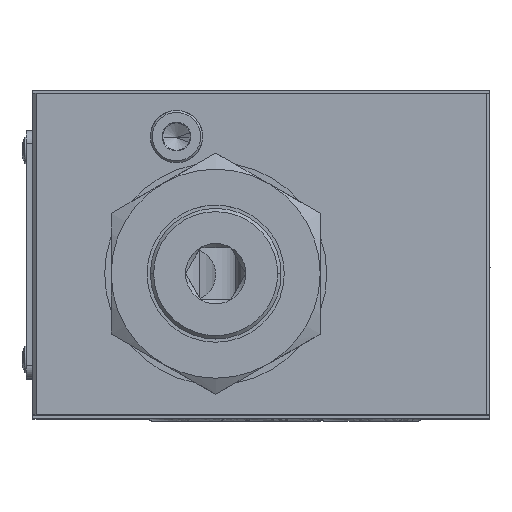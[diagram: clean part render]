
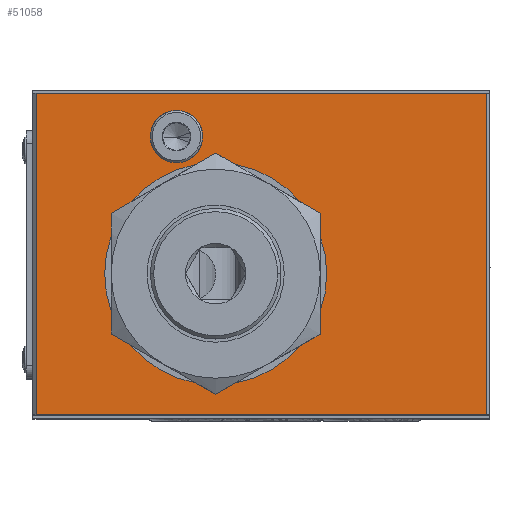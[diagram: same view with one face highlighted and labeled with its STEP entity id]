
A CAD part, top view. The second image highlights one B-rep face of the part: STEP entity #51058.
In plain terms, the highlighted planar face has unit normal (0, 0, 1).
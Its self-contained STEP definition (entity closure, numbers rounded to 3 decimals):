
#248 = AXIS2_PLACEMENT_3D ( 'NONE', #56162, #37222, #23531 ) ;
#324 = EDGE_CURVE ( 'NONE', #388, #19957, #31785, .T. ) ;
#388 = VERTEX_POINT ( 'NONE', #38814 ) ;
#2396 = EDGE_CURVE ( 'NONE', #3534, #35733, #44078, .T. ) ;
#2569 = CARTESIAN_POINT ( 'NONE',  ( 34.5, 24.6, 52.5 ) ) ;
#2976 = DIRECTION ( 'NONE',  ( 0., 1., 0. ) ) ;
#3145 = VERTEX_POINT ( 'NONE', #34135 ) ;
#3534 = VERTEX_POINT ( 'NONE', #30740 ) ;
#6315 = EDGE_LOOP ( 'NONE', ( #58267, #56287 ) ) ;
#7340 = AXIS2_PLACEMENT_3D ( 'NONE', #49820, #21880, #22082 ) ;
#8454 = CARTESIAN_POINT ( 'NONE',  ( -35., 24.6, 52.5 ) ) ;
#8456 = EDGE_CURVE ( 'NONE', #10649, #3145, #30714, .T. ) ;
#8865 = DIRECTION ( 'NONE',  ( 1., 0., 0. ) ) ;
#9330 = FACE_BOUND ( 'NONE', #6315, .T. ) ;
#10042 = VECTOR ( 'NONE', #8865, 1000. ) ;
#10649 = VERTEX_POINT ( 'NONE', #22522 ) ;
#10727 = CIRCLE ( 'NONE', #248, 17. ) ;
#11491 = CARTESIAN_POINT ( 'NONE',  ( -13., 18., 52.5 ) ) ;
#11526 = FACE_BOUND ( 'NONE', #53265, .T. ) ;
#12756 = CARTESIAN_POINT ( 'NONE',  ( 34.5, -24.6, 52.5 ) ) ;
#15528 = DIRECTION ( 'NONE',  ( 0., 0., 1. ) ) ;
#15740 = LINE ( 'NONE', #39865, #31067 ) ;
#15764 = CARTESIAN_POINT ( 'NONE',  ( -34.5, -24.6, 52.5 ) ) ;
#16257 = VECTOR ( 'NONE', #22938, 1000. ) ;
#17166 = PLANE ( 'NONE',  #7340 ) ;
#17938 = VECTOR ( 'NONE', #2976, 1000. ) ;
#18044 = LINE ( 'NONE', #8454, #10042 ) ;
#18322 = CARTESIAN_POINT ( 'NONE',  ( -7., -3., 52.5 ) ) ;
#18775 = FACE_OUTER_BOUND ( 'NONE', #53732, .T. ) ;
#19830 = ORIENTED_EDGE ( 'NONE', *, *, #41423, .F. ) ;
#19925 = EDGE_CURVE ( 'NONE', #44488, #35733, #15740, .T. ) ;
#19957 = VERTEX_POINT ( 'NONE', #54276 ) ;
#20280 = ORIENTED_EDGE ( 'NONE', *, *, #19925, .F. ) ;
#21209 = CIRCLE ( 'NONE', #53397, 4. ) ;
#21880 = DIRECTION ( 'NONE',  ( 0., 0., 1. ) ) ;
#22082 = DIRECTION ( 'NONE',  ( 1., 0., 0. ) ) ;
#22522 = CARTESIAN_POINT ( 'NONE',  ( 10., -3., 52.5 ) ) ;
#22938 = DIRECTION ( 'NONE',  ( 0., -1., 0. ) ) ;
#23531 = DIRECTION ( 'NONE',  ( 1., 0., 0. ) ) ;
#25961 = EDGE_CURVE ( 'NONE', #44488, #32193, #47898, .T. ) ;
#26575 = ORIENTED_EDGE ( 'NONE', *, *, #25961, .T. ) ;
#28785 = EDGE_CURVE ( 'NONE', #19957, #388, #21209, .T. ) ;
#30714 = CIRCLE ( 'NONE', #57607, 17. ) ;
#30740 = CARTESIAN_POINT ( 'NONE',  ( -34.5, 24.6, 52.5 ) ) ;
#30798 = CARTESIAN_POINT ( 'NONE',  ( 34.5, 24.6, 52.5 ) ) ;
#31067 = VECTOR ( 'NONE', #58800, 1000. ) ;
#31785 = CIRCLE ( 'NONE', #49092, 4. ) ;
#32193 = VERTEX_POINT ( 'NONE', #30798 ) ;
#33987 = ORIENTED_EDGE ( 'NONE', *, *, #2396, .T. ) ;
#34135 = CARTESIAN_POINT ( 'NONE',  ( -24., -3., 52.5 ) ) ;
#34253 = EDGE_CURVE ( 'NONE', #3534, #32193, #18044, .T. ) ;
#35733 = VERTEX_POINT ( 'NONE', #15764 ) ;
#37222 = DIRECTION ( 'NONE',  ( 0., 0., 1. ) ) ;
#38814 = CARTESIAN_POINT ( 'NONE',  ( -9., 18., 52.5 ) ) ;
#39443 = ORIENTED_EDGE ( 'NONE', *, *, #34253, .F. ) ;
#39865 = CARTESIAN_POINT ( 'NONE',  ( 35., -24.6, 52.5 ) ) ;
#41423 = EDGE_CURVE ( 'NONE', #3145, #10649, #10727, .T. ) ;
#41767 = CARTESIAN_POINT ( 'NONE',  ( -34.5, -24.6, 52.5 ) ) ;
#42470 = CARTESIAN_POINT ( 'NONE',  ( -13., 18., 52.5 ) ) ;
#44078 = LINE ( 'NONE', #41767, #16257 ) ;
#44488 = VERTEX_POINT ( 'NONE', #12756 ) ;
#47898 = LINE ( 'NONE', #2569, #17938 ) ;
#49092 = AXIS2_PLACEMENT_3D ( 'NONE', #11491, #15528, #58171 ) ;
#49820 = CARTESIAN_POINT ( 'NONE',  ( -35., -25.1, 52.5 ) ) ;
#50992 = DIRECTION ( 'NONE',  ( 1., 0., 0. ) ) ;
#51058 = ADVANCED_FACE ( 'NONE', ( #9330, #18775, #11526 ), #17166, .T. ) ;
#51553 = DIRECTION ( 'NONE',  ( 0., 0., 1. ) ) ;
#51587 = DIRECTION ( 'NONE',  ( 0., 0., 1. ) ) ;
#53265 = EDGE_LOOP ( 'NONE', ( #53838, #19830 ) ) ;
#53397 = AXIS2_PLACEMENT_3D ( 'NONE', #42470, #51587, #50992 ) ;
#53732 = EDGE_LOOP ( 'NONE', ( #20280, #26575, #39443, #33987 ) ) ;
#53838 = ORIENTED_EDGE ( 'NONE', *, *, #8456, .F. ) ;
#54276 = CARTESIAN_POINT ( 'NONE',  ( -17., 18., 52.5 ) ) ;
#56162 = CARTESIAN_POINT ( 'NONE',  ( -7., -3., 52.5 ) ) ;
#56287 = ORIENTED_EDGE ( 'NONE', *, *, #28785, .F. ) ;
#56451 = DIRECTION ( 'NONE',  ( 1., 0., 0. ) ) ;
#57607 = AXIS2_PLACEMENT_3D ( 'NONE', #18322, #51553, #56451 ) ;
#58171 = DIRECTION ( 'NONE',  ( 1., 0., 0. ) ) ;
#58267 = ORIENTED_EDGE ( 'NONE', *, *, #324, .F. ) ;
#58800 = DIRECTION ( 'NONE',  ( -1., 0., 0. ) ) ;
